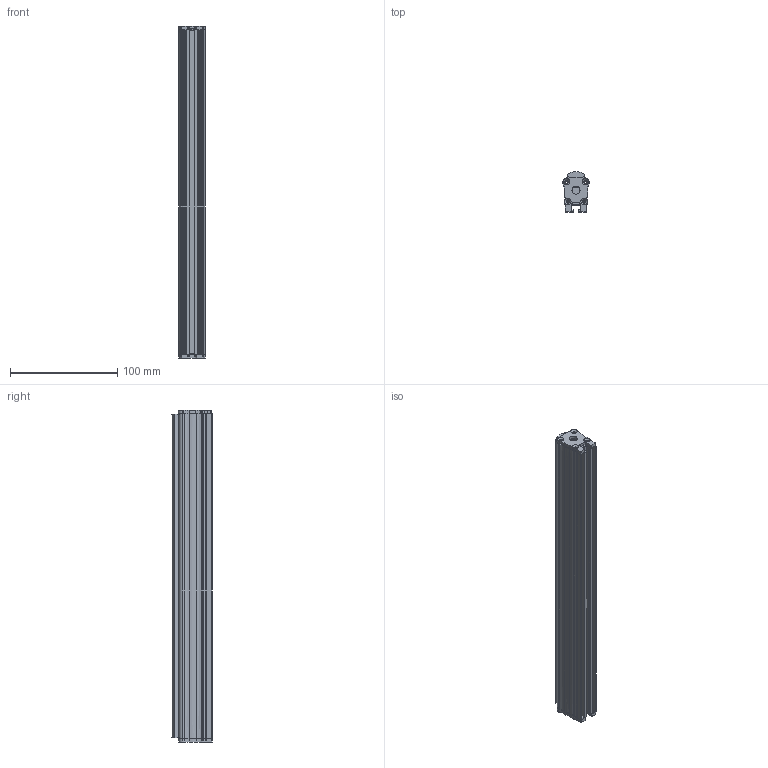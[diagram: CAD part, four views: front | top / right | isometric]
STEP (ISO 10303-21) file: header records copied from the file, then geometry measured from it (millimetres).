
FILE_DESCRIPTION(('STEP AP214'),'1');
FILE_NAME('lin+op 281.stp','2021-02-15T14:41:38',('Blanc'),('Phlox'),'Spatial InterOp 3D',' ',' ');
FILE_SCHEMA(('AUTOMOTIVE_DESIGN { 1 0 10303 214 1 1 1 1 }'));
Length unit declared in the file: inch
Products named in the file (1): Pièce_83634808
Bounding box: 24.54 x 37.28 x 309.06 mm (x, y, z)
Volume: 113759.9 mm3; surface area: 95057.3 mm2
Topology: 6 solids, 6 shells, 380 faces, 1090 edges, 718 vertices
Faces by surface type: cylinder 211, plane 103, bspline 36, cone 16, extrusion 14
Entity records: 25495 total; most frequent: CARTESIAN_POINT 7509, ORIENTED_EDGE 2180, DIRECTION 2086, STYLED_ITEM 1345, PRESENTATION_STYLE_ASSIGNMENT 1345, COLOUR_RGB 1345, EDGE_CURVE 1090, CURVE_STYLE 959
